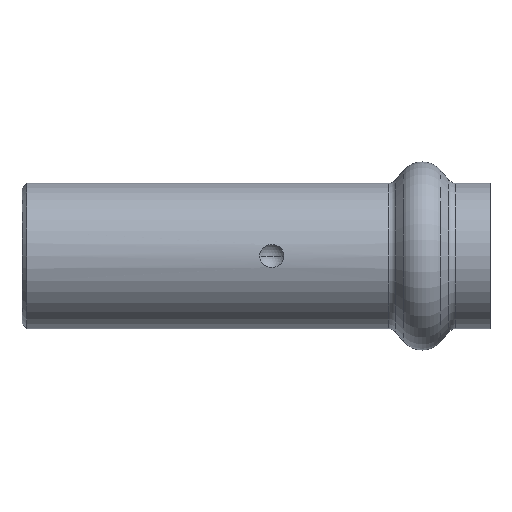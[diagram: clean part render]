
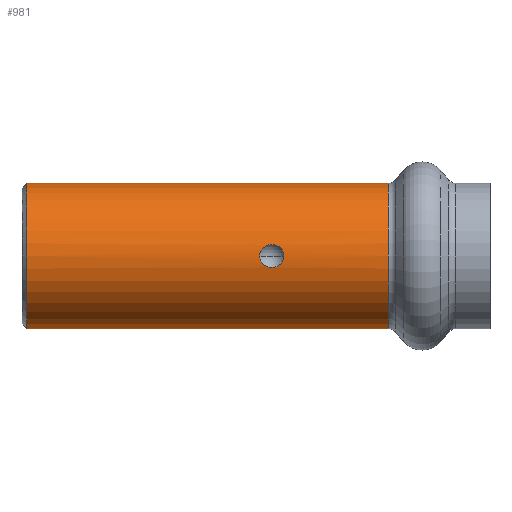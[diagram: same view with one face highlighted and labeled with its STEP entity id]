
A CAD part, front view. The second image highlights one B-rep face of the part: STEP entity #981.
In plain terms, the highlighted cylindrical face has radius 7.499 mm (diameter 14.998 mm), a partial arc.
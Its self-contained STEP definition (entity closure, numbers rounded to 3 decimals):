
#25 = VERTEX_POINT ( 'NONE', #830 ) ;
#49 = CARTESIAN_POINT ( 'NONE',  ( 12.009, 0., 0. ) ) ;
#66 = EDGE_CURVE ( 'NONE', #996, #1311, #86, .T. ) ;
#69 = EDGE_LOOP ( 'NONE', ( #497, #625, #1117, #1274 ) ) ;
#86 = CIRCLE ( 'NONE', #1171, 7.499 ) ;
#95 = CARTESIAN_POINT ( 'NONE',  ( 0.319, -7.409, 1.158 ) ) ;
#100 = CARTESIAN_POINT ( 'NONE',  ( -0.754, -7.438, -0.96 ) ) ;
#108 = CARTESIAN_POINT ( 'NONE',  ( -47.694, 0., 0. ) ) ;
#142 = CARTESIAN_POINT ( 'NONE',  ( 0.618, -7.426, -1.044 ) ) ;
#205 = CARTESIAN_POINT ( 'NONE',  ( -0.616, -7.426, -1.044 ) ) ;
#214 = CARTESIAN_POINT ( 'NONE',  ( -0.318, -7.409, -1.158 ) ) ;
#224 = CARTESIAN_POINT ( 'NONE',  ( -0.158, -7.404, -1.187 ) ) ;
#228 = DIRECTION ( 'NONE',  ( 0., 0., 1. ) ) ;
#240 = DIRECTION ( 'NONE',  ( -1., 0., 0. ) ) ;
#265 = B_SPLINE_CURVE_WITH_KNOTS ( 'NONE', 3,
 ( #742, #1203, #418, #865, #431, #806, #603, #95, #539, #532, #516, #333, #433, #450, #412, #394, #703, #341, #269, #359 ),
 .UNSPECIFIED., .F., .F.,
 ( 4, 2, 2, 2, 2, 2, 2, 2, 2, 4 ),
 ( 0.006, 0.006, 0.007, 0.007, 0.008, 0.008, 0.009, 0.009, 0.009, 0.01 ),
 .UNSPECIFIED. ) ;
#266 = CARTESIAN_POINT ( 'NONE',  ( 0.321, -7.409, -1.157 ) ) ;
#269 = CARTESIAN_POINT ( 'NONE',  ( -1.25, -7.499, 0.159 ) ) ;
#271 = EDGE_CURVE ( 'NONE', #996, #1004, #992, .T. ) ;
#292 = EDGE_CURVE ( 'NONE', #1076, #922, #1306, .T. ) ;
#293 = CARTESIAN_POINT ( 'NONE',  ( 12.009, 0., 7.499 ) ) ;
#313 = EDGE_CURVE ( 'NONE', #25, #1004, #1042, .T. ) ;
#333 = CARTESIAN_POINT ( 'NONE',  ( -0.62, -7.426, 1.043 ) ) ;
#341 = CARTESIAN_POINT ( 'NONE',  ( -1.215, -7.494, 0.319 ) ) ;
#359 = CARTESIAN_POINT ( 'NONE',  ( -1.25, -7.499, 0. ) ) ;
#366 = EDGE_CURVE ( 'NONE', #922, #1076, #265, .T. ) ;
#383 = CARTESIAN_POINT ( 'NONE',  ( 0.161, -7.405, -1.187 ) ) ;
#394 = CARTESIAN_POINT ( 'NONE',  ( -1.078, -7.475, 0.607 ) ) ;
#401 = CARTESIAN_POINT ( 'NONE',  ( -1.25, -7.499, 0. ) ) ;
#403 = EDGE_CURVE ( 'NONE', #1311, #25, #1249, .T. ) ;
#412 = CARTESIAN_POINT ( 'NONE',  ( -0.985, -7.463, 0.736 ) ) ;
#417 = CARTESIAN_POINT ( 'NONE',  ( 12.009, 0., -7.499 ) ) ;
#418 = CARTESIAN_POINT ( 'NONE',  ( 1.216, -7.494, 0.32 ) ) ;
#431 = CARTESIAN_POINT ( 'NONE',  ( 0.989, -7.463, 0.744 ) ) ;
#433 = CARTESIAN_POINT ( 'NONE',  ( -0.758, -7.438, 0.958 ) ) ;
#450 = CARTESIAN_POINT ( 'NONE',  ( -0.932, -7.457, 0.796 ) ) ;
#481 = ORIENTED_EDGE ( 'NONE', *, *, #292, .F. ) ;
#497 = ORIENTED_EDGE ( 'NONE', *, *, #271, .F. ) ;
#510 = DIRECTION ( 'NONE',  ( 0., 0., 1. ) ) ;
#516 = CARTESIAN_POINT ( 'NONE',  ( -0.321, -7.409, 1.157 ) ) ;
#532 = CARTESIAN_POINT ( 'NONE',  ( -0.163, -7.405, 1.186 ) ) ;
#539 = CARTESIAN_POINT ( 'NONE',  ( 0.159, -7.404, 1.187 ) ) ;
#601 = ORIENTED_EDGE ( 'NONE', *, *, #366, .F. ) ;
#603 = CARTESIAN_POINT ( 'NONE',  ( 0.616, -7.426, 1.044 ) ) ;
#625 = ORIENTED_EDGE ( 'NONE', *, *, #66, .T. ) ;
#640 = CARTESIAN_POINT ( 'NONE',  ( -1.216, -7.494, -0.319 ) ) ;
#695 = DIRECTION ( 'NONE',  ( -1., 0., 0. ) ) ;
#703 = CARTESIAN_POINT ( 'NONE',  ( -1.119, -7.48, 0.537 ) ) ;
#708 = CARTESIAN_POINT ( 'NONE',  ( -47.694, 0., 7.499 ) ) ;
#742 = CARTESIAN_POINT ( 'NONE',  ( 1.25, -7.499, 0. ) ) ;
#757 = CYLINDRICAL_SURFACE ( 'NONE', #1010, 7.499 ) ;
#783 = CARTESIAN_POINT ( 'NONE',  ( 1.25, -7.499, 0. ) ) ;
#806 = CARTESIAN_POINT ( 'NONE',  ( 0.756, -7.438, 0.959 ) ) ;
#816 = CARTESIAN_POINT ( 'NONE',  ( 0.757, -7.438, -0.958 ) ) ;
#818 = VECTOR ( 'NONE', #695, 1000. ) ;
#830 = CARTESIAN_POINT ( 'NONE',  ( -25.25, 0., 7.499 ) ) ;
#865 = CARTESIAN_POINT ( 'NONE',  ( 1.085, -7.475, 0.612 ) ) ;
#873 = DIRECTION ( 'NONE',  ( -1., 0., 0. ) ) ;
#922 = VERTEX_POINT ( 'NONE', #1283 ) ;
#969 = VECTOR ( 'NONE', #1292, 1000. ) ;
#981 = ADVANCED_FACE ( 'NONE', ( #1071, #1168 ), #757, .T. ) ;
#992 = LINE ( 'NONE', #1301, #969 ) ;
#996 = VERTEX_POINT ( 'NONE', #417 ) ;
#1004 = VERTEX_POINT ( 'NONE', #1287 ) ;
#1010 = AXIS2_PLACEMENT_3D ( 'NONE', #108, #240, #228 ) ;
#1019 = DIRECTION ( 'NONE',  ( 0., 0., -1. ) ) ;
#1031 = DIRECTION ( 'NONE',  ( 1., 0., 0. ) ) ;
#1042 = CIRCLE ( 'NONE', #1199, 7.499 ) ;
#1046 = CARTESIAN_POINT ( 'NONE',  ( -25.25, 0., 0. ) ) ;
#1071 = FACE_OUTER_BOUND ( 'NONE', #69, .T. ) ;
#1074 = EDGE_LOOP ( 'NONE', ( #481, #601 ) ) ;
#1076 = VERTEX_POINT ( 'NONE', #1212 ) ;
#1115 = CARTESIAN_POINT ( 'NONE',  ( 1.208, -7.493, -0.315 ) ) ;
#1117 = ORIENTED_EDGE ( 'NONE', *, *, #403, .T. ) ;
#1120 = CARTESIAN_POINT ( 'NONE',  ( 1.242, -7.498, -0.159 ) ) ;
#1130 = CARTESIAN_POINT ( 'NONE',  ( 1.086, -7.476, -0.61 ) ) ;
#1132 = CARTESIAN_POINT ( 'NONE',  ( 1.25, -7.499, -0.08 ) ) ;
#1136 = CARTESIAN_POINT ( 'NONE',  ( -1.085, -7.475, -0.611 ) ) ;
#1140 = CARTESIAN_POINT ( 'NONE',  ( -0.99, -7.463, -0.743 ) ) ;
#1144 = CARTESIAN_POINT ( 'NONE',  ( -1.25, -7.499, -0.159 ) ) ;
#1150 = CARTESIAN_POINT ( 'NONE',  ( 1.183, -7.489, -0.393 ) ) ;
#1153 = CARTESIAN_POINT ( 'NONE',  ( 0.99, -7.463, -0.743 ) ) ;
#1168 = FACE_BOUND ( 'NONE', #1074, .T. ) ;
#1171 = AXIS2_PLACEMENT_3D ( 'NONE', #49, #873, #510 ) ;
#1199 = AXIS2_PLACEMENT_3D ( 'NONE', #1046, #1031, #1019 ) ;
#1203 = CARTESIAN_POINT ( 'NONE',  ( 1.25, -7.499, 0.16 ) ) ;
#1212 = CARTESIAN_POINT ( 'NONE',  ( -1.25, -7.499, 0. ) ) ;
#1249 = LINE ( 'NONE', #708, #818 ) ;
#1274 = ORIENTED_EDGE ( 'NONE', *, *, #313, .T. ) ;
#1283 = CARTESIAN_POINT ( 'NONE',  ( 1.25, -7.499, 0. ) ) ;
#1287 = CARTESIAN_POINT ( 'NONE',  ( -25.25, 0., -7.499 ) ) ;
#1292 = DIRECTION ( 'NONE',  ( -1., 0., 0. ) ) ;
#1301 = CARTESIAN_POINT ( 'NONE',  ( -47.694, 0., -7.499 ) ) ;
#1306 = B_SPLINE_CURVE_WITH_KNOTS ( 'NONE', 3,
 ( #401, #1144, #640, #1136, #1140, #100, #205, #214, #224, #383, #266, #142, #816, #1153, #1130, #1150, #1115, #1120, #1132, #783 ),
 .UNSPECIFIED., .F., .F.,
 ( 4, 2, 2, 2, 2, 2, 2, 2, 2, 4 ),
 ( 0.002, 0.002, 0.003, 0.003, 0.004, 0.004, 0.005, 0.005, 0.005, 0.006 ),
 .UNSPECIFIED. ) ;
#1311 = VERTEX_POINT ( 'NONE', #293 ) ;
